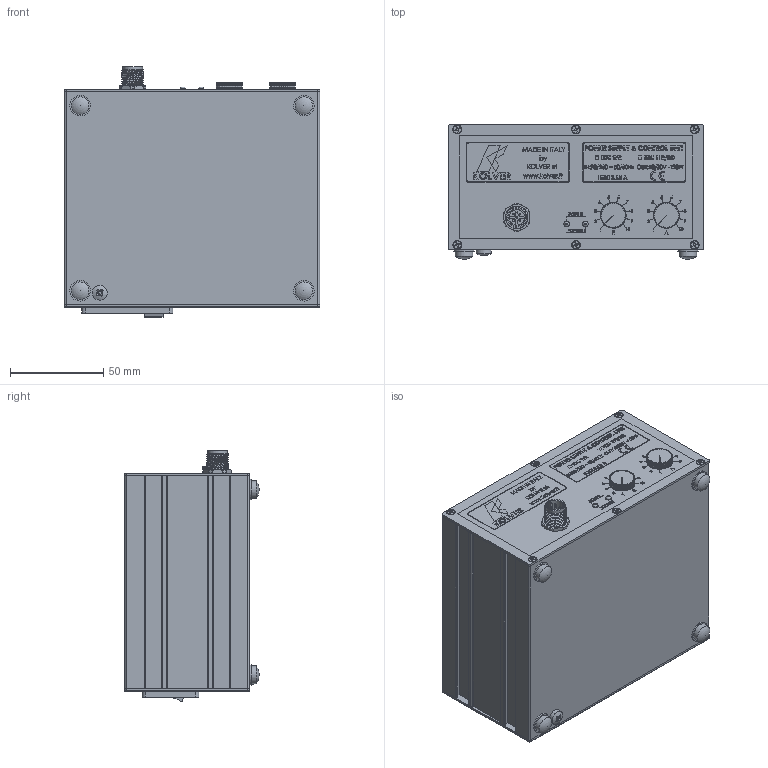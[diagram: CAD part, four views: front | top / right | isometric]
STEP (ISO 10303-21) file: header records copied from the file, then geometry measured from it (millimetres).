
FILE_DESCRIPTION (( 'STEP AP214' ), '1' );
FILE_NAME ('Edu 1FR.STEP', '2025-10-21T12:26:13', ( '' ), ( '' ), 'SwSTEP 2.0', 'SolidWorks 2024', '' );
FILE_SCHEMA (( 'AUTOMOTIVE_DESIGN' ));
Length unit declared in the file: millimetre
Products named in the file (1): Edu 1FR
Bounding box: 137 x 72 x 134.6 mm (x, y, z)
Volume: 220955.6 mm3; surface area: 233214.4 mm2
Topology: 34 solids, 34 shells, 4383 faces, 11222 edges, 7205 vertices
Faces by surface type: plane 2472, cylinder 792, bspline 776, cone 295, torus 26, sphere 22
Full cylindrical faces by diameter (mm): 0.457 x1, 1 x16, 1.2 x7, 1.25 x7, 1.3 x1, 1.6 x6, 1.68 x108, 2 x2, 2.146 x2, 2.2 x84, 2.5 x2, 2.85 x2, 3 x4, 3.2 x14, 3.35 x1, 4 x8, 4.15 x2, 4.3 x12, 4.4 x2, 6.7 x1, 7.75 x2, 8 x1, 8.3 x1, 9.4 x1, 9.5 x7, 10.5 x1, 11 x4, 12 x2
Entity records: 217188 total; most frequent: CARTESIAN_POINT 69732, ORIENTED_EDGE 21024, DIRECTION 17964, EDGE_CURVE 10512, VECTOR 7210, LINE 7210, VERTEX_POINT 7119, AXIS2_PLACEMENT_3D 5377
